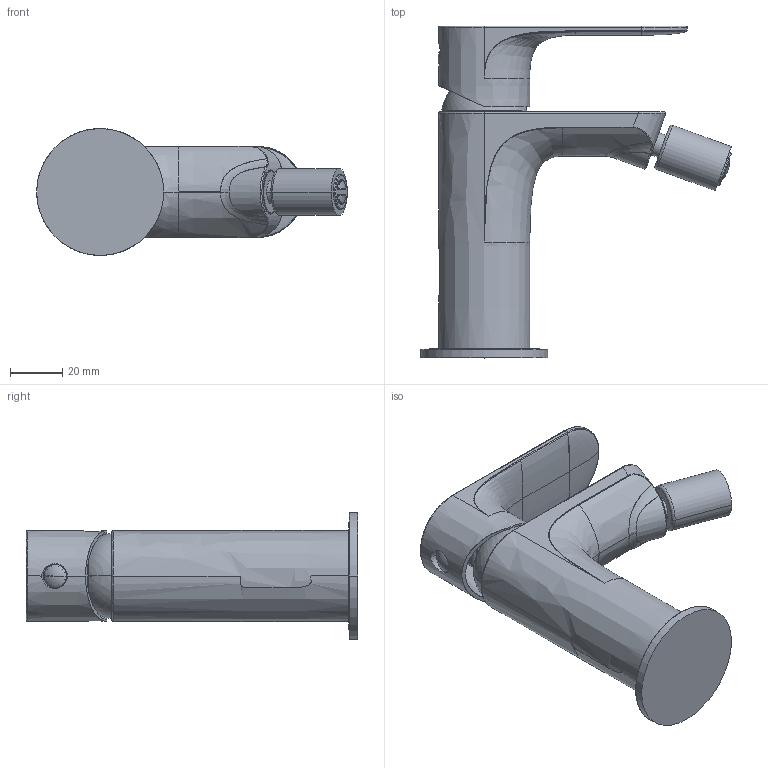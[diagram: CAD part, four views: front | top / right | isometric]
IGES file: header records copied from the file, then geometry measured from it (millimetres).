
Start section:  PTC IGES file: 64080.igs
Global section: file name: 64080.igs; native system: Creo Parametric by PTC Inc.; preprocessor: 2018100; author: carloff; organization: Unknown; date: 20210910.110547; units: millimetre
Bounding box: 119.34 x 127.5 x 48.8 mm (x, y, z)
Surface area: 36164.8 mm2 (no closed solid volume)
Topology: 0 solids, 0 shells, 387 faces, 2044 edges, 2036 vertices
Faces by surface type: revolution 225, bspline 156, extrusion 6
